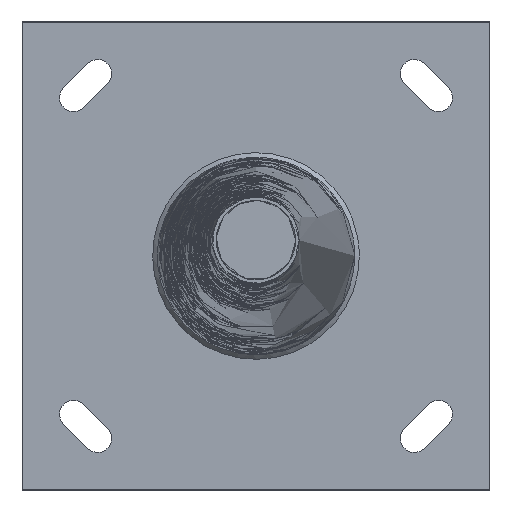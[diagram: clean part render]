
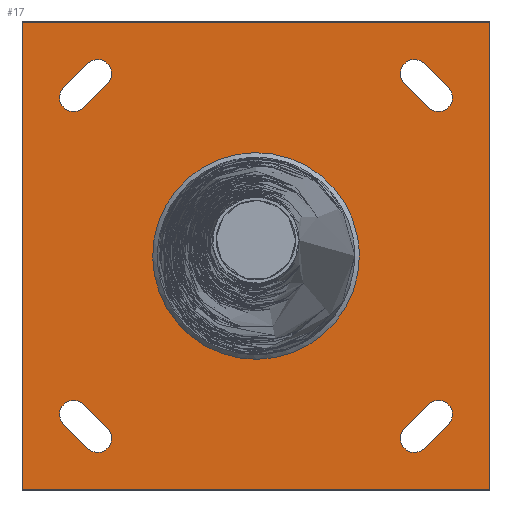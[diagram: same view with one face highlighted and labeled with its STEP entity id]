
A CAD part, top view. The second image highlights one B-rep face of the part: STEP entity #17.
In plain terms, the highlighted planar face has unit normal (0, 0, 1).
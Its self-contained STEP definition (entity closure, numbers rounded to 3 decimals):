
#17 = ADVANCED_FACE('',(#18,#57,#91,#127,#163,#199),#235,.T.);
#18 = FACE_BOUND('',#19,.T.);
#19 = EDGE_LOOP('',(#20));
#20 = ORIENTED_EDGE('',*,*,#21,.T.);
#21 = EDGE_CURVE('',#22,#22,#24,.T.);
#22 = VERTEX_POINT('',#23);
#23 = CARTESIAN_POINT('',(90.969,0.,5.));
#24 = B_SPLINE_CURVE_WITH_KNOTS('',11,(#25,#26,#27,#28,#29,#30,#31,#32,
    #33,#34,#35,#36,#37,#38,#39,#40,#41,#42,#43,#44,#45,#46,#47,#48,#49,
    #50,#51,#52,#53,#54,#55,#56),.UNSPECIFIED.,.T.,.F.,(12,10,10,12),(
    0.,136.611,273.222,546.445),
  .UNSPECIFIED.);
#25 = CARTESIAN_POINT('',(90.969,0.,5.));
#26 = CARTESIAN_POINT('',(90.969,-12.99,5.));
#27 = CARTESIAN_POINT('',(88.929,-25.981,5.
    ));
#28 = CARTESIAN_POINT('',(84.848,-38.613,5.
    ));
#29 = CARTESIAN_POINT('',(78.796,-50.541,5.
    ));
#30 = CARTESIAN_POINT('',(70.914,-61.401,5.)
  );
#31 = CARTESIAN_POINT('',(61.406,-70.918,5.
    ));
#32 = CARTESIAN_POINT('',(50.537,-78.794,5.
    ));
#33 = CARTESIAN_POINT('',(38.615,-84.849,5.
    ));
#34 = CARTESIAN_POINT('',(25.981,-88.929,5.));
#35 = CARTESIAN_POINT('',(12.99,-90.969,5.));
#36 = CARTESIAN_POINT('',(-12.991,-90.969,5.));
#37 = CARTESIAN_POINT('',(-25.981,-88.929,5.
    ));
#38 = CARTESIAN_POINT('',(-38.615,-84.848,5.)
  );
#39 = CARTESIAN_POINT('',(-50.537,-78.796,5.
    ));
#40 = CARTESIAN_POINT('',(-61.406,-70.914,5.
    ));
#41 = CARTESIAN_POINT('',(-70.914,-61.406,5.)
  );
#42 = CARTESIAN_POINT('',(-78.796,-50.537,5.
    ));
#43 = CARTESIAN_POINT('',(-84.848,-38.615,5.
    ));
#44 = CARTESIAN_POINT('',(-88.929,-25.981,5.));
#45 = CARTESIAN_POINT('',(-90.969,-12.99,5.));
#46 = CARTESIAN_POINT('',(-90.969,25.981,5.));
#47 = CARTESIAN_POINT('',(-82.807,51.962,5.
    ));
#48 = CARTESIAN_POINT('',(-66.483,75.093,5.
    ));
#49 = CARTESIAN_POINT('',(-43.115,92.528,5.)
  );
#50 = CARTESIAN_POINT('',(-14.942,101.913,5.
    ));
#51 = CARTESIAN_POINT('',(14.943,101.919,5.
    ));
#52 = CARTESIAN_POINT('',(43.116,92.523,5.
    ));
#53 = CARTESIAN_POINT('',(66.483,75.095,5.
    ));
#54 = CARTESIAN_POINT('',(82.808,51.96,5.
    ));
#55 = CARTESIAN_POINT('',(90.969,25.981,5.));
#56 = CARTESIAN_POINT('',(90.969,0.,5.));
#57 = FACE_BOUND('',#58,.T.);
#58 = EDGE_LOOP('',(#59,#69,#77,#85));
#59 = ORIENTED_EDGE('',*,*,#60,.T.);
#60 = EDGE_CURVE('',#61,#63,#65,.T.);
#61 = VERTEX_POINT('',#62);
#62 = CARTESIAN_POINT('',(-206.,206.,5.));
#63 = VERTEX_POINT('',#64);
#64 = CARTESIAN_POINT('',(-206.,-206.,5.));
#65 = LINE('',#66,#67);
#66 = CARTESIAN_POINT('',(-206.,206.,5.));
#67 = VECTOR('',#68,1.);
#68 = DIRECTION('',(0.,-1.,0.));
#69 = ORIENTED_EDGE('',*,*,#70,.T.);
#70 = EDGE_CURVE('',#63,#71,#73,.T.);
#71 = VERTEX_POINT('',#72);
#72 = CARTESIAN_POINT('',(206.,-206.,5.));
#73 = LINE('',#74,#75);
#74 = CARTESIAN_POINT('',(-206.,-206.,5.));
#75 = VECTOR('',#76,1.);
#76 = DIRECTION('',(1.,0.,0.));
#77 = ORIENTED_EDGE('',*,*,#78,.T.);
#78 = EDGE_CURVE('',#71,#79,#81,.T.);
#79 = VERTEX_POINT('',#80);
#80 = CARTESIAN_POINT('',(206.,206.,5.));
#81 = LINE('',#82,#83);
#82 = CARTESIAN_POINT('',(206.,-206.,5.));
#83 = VECTOR('',#84,1.);
#84 = DIRECTION('',(0.,1.,0.));
#85 = ORIENTED_EDGE('',*,*,#86,.T.);
#86 = EDGE_CURVE('',#79,#61,#87,.T.);
#87 = LINE('',#88,#89);
#88 = CARTESIAN_POINT('',(206.,206.,5.));
#89 = VECTOR('',#90,1.);
#90 = DIRECTION('',(-1.,0.,0.));
#91 = FACE_BOUND('',#92,.T.);
#92 = EDGE_LOOP('',(#93,#104,#112,#121));
#93 = ORIENTED_EDGE('',*,*,#94,.F.);
#94 = EDGE_CURVE('',#95,#97,#99,.T.);
#95 = VERTEX_POINT('',#96);
#96 = CARTESIAN_POINT('',(-151.768,-130.555,5.));
#97 = VERTEX_POINT('',#98);
#98 = CARTESIAN_POINT('',(-169.445,-148.232,5.));
#99 = CIRCLE('',#100,12.5);
#100 = AXIS2_PLACEMENT_3D('',#101,#102,#103);
#101 = CARTESIAN_POINT('',(-160.607,-139.393,5.));
#102 = DIRECTION('',(0.,-0.,1.));
#103 = DIRECTION('',(0.,1.,0.));
#104 = ORIENTED_EDGE('',*,*,#105,.T.);
#105 = EDGE_CURVE('',#95,#106,#108,.T.);
#106 = VERTEX_POINT('',#107);
#107 = CARTESIAN_POINT('',(-130.555,-151.768,5.));
#108 = LINE('',#109,#110);
#109 = CARTESIAN_POINT('',(-151.768,-130.555,5.));
#110 = VECTOR('',#111,1.);
#111 = DIRECTION('',(0.707,-0.707,0.));
#112 = ORIENTED_EDGE('',*,*,#113,.F.);
#113 = EDGE_CURVE('',#114,#106,#116,.T.);
#114 = VERTEX_POINT('',#115);
#115 = CARTESIAN_POINT('',(-148.232,-169.445,5.));
#116 = CIRCLE('',#117,12.5);
#117 = AXIS2_PLACEMENT_3D('',#118,#119,#120);
#118 = CARTESIAN_POINT('',(-139.393,-160.607,5.));
#119 = DIRECTION('',(0.,-0.,1.));
#120 = DIRECTION('',(0.,1.,0.));
#121 = ORIENTED_EDGE('',*,*,#122,.F.);
#122 = EDGE_CURVE('',#97,#114,#123,.T.);
#123 = LINE('',#124,#125);
#124 = CARTESIAN_POINT('',(-169.445,-148.232,5.));
#125 = VECTOR('',#126,1.);
#126 = DIRECTION('',(0.707,-0.707,0.));
#127 = FACE_BOUND('',#128,.T.);
#128 = EDGE_LOOP('',(#129,#140,#148,#157));
#129 = ORIENTED_EDGE('',*,*,#130,.F.);
#130 = EDGE_CURVE('',#131,#133,#135,.T.);
#131 = VERTEX_POINT('',#132);
#132 = CARTESIAN_POINT('',(130.555,-151.768,5.));
#133 = VERTEX_POINT('',#134);
#134 = CARTESIAN_POINT('',(148.232,-169.445,5.));
#135 = CIRCLE('',#136,12.5);
#136 = AXIS2_PLACEMENT_3D('',#137,#138,#139);
#137 = CARTESIAN_POINT('',(139.393,-160.607,5.));
#138 = DIRECTION('',(0.,0.,1.));
#139 = DIRECTION('',(-1.,0.,0.));
#140 = ORIENTED_EDGE('',*,*,#141,.T.);
#141 = EDGE_CURVE('',#131,#142,#144,.T.);
#142 = VERTEX_POINT('',#143);
#143 = CARTESIAN_POINT('',(151.768,-130.555,5.));
#144 = LINE('',#145,#146);
#145 = CARTESIAN_POINT('',(130.555,-151.768,5.));
#146 = VECTOR('',#147,1.);
#147 = DIRECTION('',(0.707,0.707,0.));
#148 = ORIENTED_EDGE('',*,*,#149,.F.);
#149 = EDGE_CURVE('',#150,#142,#152,.T.);
#150 = VERTEX_POINT('',#151);
#151 = CARTESIAN_POINT('',(169.445,-148.232,5.));
#152 = CIRCLE('',#153,12.5);
#153 = AXIS2_PLACEMENT_3D('',#154,#155,#156);
#154 = CARTESIAN_POINT('',(160.607,-139.393,5.));
#155 = DIRECTION('',(0.,0.,1.));
#156 = DIRECTION('',(-1.,0.,0.));
#157 = ORIENTED_EDGE('',*,*,#158,.F.);
#158 = EDGE_CURVE('',#133,#150,#159,.T.);
#159 = LINE('',#160,#161);
#160 = CARTESIAN_POINT('',(148.232,-169.445,5.));
#161 = VECTOR('',#162,1.);
#162 = DIRECTION('',(0.707,0.707,0.));
#163 = FACE_BOUND('',#164,.T.);
#164 = EDGE_LOOP('',(#165,#176,#184,#193));
#165 = ORIENTED_EDGE('',*,*,#166,.F.);
#166 = EDGE_CURVE('',#167,#169,#171,.T.);
#167 = VERTEX_POINT('',#168);
#168 = CARTESIAN_POINT('',(-130.555,151.768,5.));
#169 = VERTEX_POINT('',#170);
#170 = CARTESIAN_POINT('',(-148.232,169.445,5.));
#171 = CIRCLE('',#172,12.5);
#172 = AXIS2_PLACEMENT_3D('',#173,#174,#175);
#173 = CARTESIAN_POINT('',(-139.393,160.607,5.));
#174 = DIRECTION('',(0.,0.,1.));
#175 = DIRECTION('',(1.,0.,0.));
#176 = ORIENTED_EDGE('',*,*,#177,.T.);
#177 = EDGE_CURVE('',#167,#178,#180,.T.);
#178 = VERTEX_POINT('',#179);
#179 = CARTESIAN_POINT('',(-151.768,130.555,5.));
#180 = LINE('',#181,#182);
#181 = CARTESIAN_POINT('',(-130.555,151.768,5.));
#182 = VECTOR('',#183,1.);
#183 = DIRECTION('',(-0.707,-0.707,0.));
#184 = ORIENTED_EDGE('',*,*,#185,.F.);
#185 = EDGE_CURVE('',#186,#178,#188,.T.);
#186 = VERTEX_POINT('',#187);
#187 = CARTESIAN_POINT('',(-169.445,148.232,5.));
#188 = CIRCLE('',#189,12.5);
#189 = AXIS2_PLACEMENT_3D('',#190,#191,#192);
#190 = CARTESIAN_POINT('',(-160.607,139.393,5.));
#191 = DIRECTION('',(0.,0.,1.));
#192 = DIRECTION('',(1.,0.,0.));
#193 = ORIENTED_EDGE('',*,*,#194,.F.);
#194 = EDGE_CURVE('',#169,#186,#195,.T.);
#195 = LINE('',#196,#197);
#196 = CARTESIAN_POINT('',(-148.232,169.445,5.));
#197 = VECTOR('',#198,1.);
#198 = DIRECTION('',(-0.707,-0.707,0.));
#199 = FACE_BOUND('',#200,.T.);
#200 = EDGE_LOOP('',(#201,#212,#220,#229));
#201 = ORIENTED_EDGE('',*,*,#202,.F.);
#202 = EDGE_CURVE('',#203,#205,#207,.T.);
#203 = VERTEX_POINT('',#204);
#204 = CARTESIAN_POINT('',(151.768,130.555,5.));
#205 = VERTEX_POINT('',#206);
#206 = CARTESIAN_POINT('',(169.445,148.232,5.));
#207 = CIRCLE('',#208,12.5);
#208 = AXIS2_PLACEMENT_3D('',#209,#210,#211);
#209 = CARTESIAN_POINT('',(160.607,139.393,5.));
#210 = DIRECTION('',(0.,0.,1.));
#211 = DIRECTION('',(0.,-1.,0.));
#212 = ORIENTED_EDGE('',*,*,#213,.T.);
#213 = EDGE_CURVE('',#203,#214,#216,.T.);
#214 = VERTEX_POINT('',#215);
#215 = CARTESIAN_POINT('',(130.555,151.768,5.));
#216 = LINE('',#217,#218);
#217 = CARTESIAN_POINT('',(151.768,130.555,5.));
#218 = VECTOR('',#219,1.);
#219 = DIRECTION('',(-0.707,0.707,0.));
#220 = ORIENTED_EDGE('',*,*,#221,.F.);
#221 = EDGE_CURVE('',#222,#214,#224,.T.);
#222 = VERTEX_POINT('',#223);
#223 = CARTESIAN_POINT('',(148.232,169.445,5.));
#224 = CIRCLE('',#225,12.5);
#225 = AXIS2_PLACEMENT_3D('',#226,#227,#228);
#226 = CARTESIAN_POINT('',(139.393,160.607,5.));
#227 = DIRECTION('',(0.,0.,1.));
#228 = DIRECTION('',(0.,-1.,0.));
#229 = ORIENTED_EDGE('',*,*,#230,.F.);
#230 = EDGE_CURVE('',#205,#222,#231,.T.);
#231 = LINE('',#232,#233);
#232 = CARTESIAN_POINT('',(169.445,148.232,5.));
#233 = VECTOR('',#234,1.);
#234 = DIRECTION('',(-0.707,0.707,0.));
#235 = PLANE('',#236);
#236 = AXIS2_PLACEMENT_3D('',#237,#238,#239);
#237 = CARTESIAN_POINT('',(0.,0.,5.));
#238 = DIRECTION('',(0.,0.,1.));
#239 = DIRECTION('',(1.,0.,0.));
